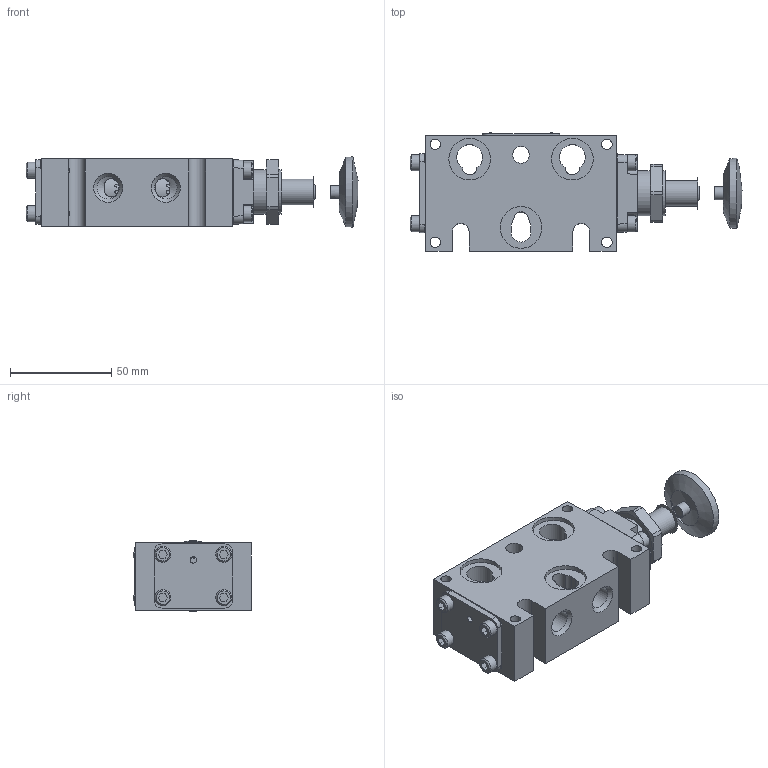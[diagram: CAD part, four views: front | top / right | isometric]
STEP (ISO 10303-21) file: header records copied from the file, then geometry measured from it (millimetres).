
FILE_DESCRIPTION(/* description */ (''),/* implementation_level */ '2;1');
FILE_NAME(/* name */ 'D:\Engineering\Product\valves\Assembly\palm\KO\stp\BKO2R.stp',/* time_stamp */ '2022-05-01T21:49:28-04:00',/* author */ ('RMcKenna'),/* organization */ (''),/* preprocessor_version */ 'ST-DEVELOPER v18.1',/* originating_system */ 'Autodesk Inventor 2021',/* authorisation */ '');
FILE_SCHEMA (('AUTOMOTIVE_DESIGN { 1 0 10303 214 3 1 1 }'));
Length unit declared in the file: centimetre
Products named in the file (1): Part9
Bounding box: 164.22 x 58.5 x 34.83 mm (x, y, z)
Volume: 164623.4 mm3; surface area: 60226.2 mm2
Topology: 1 solids, 27 shells, 886 faces, 2059 edges, 1306 vertices
Faces by surface type: plane 359, cone 212, cylinder 190, torus 86, bspline 36, sphere 3
Full cylindrical faces by diameter (mm): 2.07 x2, 2.261 x2, 2.778 x2, 3.048 x2, 3.175 x3, 3.683 x8, 4.826 x8, 5.156 x12, 6.401 x2, 7.938 x8, 8.153 x1, 8.334 x1, 9.922 x1, 10.973 x2, 11.113 x2, 11.303 x2, 12.7 x1, 14.275 x1, 18.618 x2, 18.745 x12, 19.177 x2, 20.625 x3, 22.225 x2, 23.825 x7
Entity records: 28888 total; most frequent: CARTESIAN_POINT 7828, DIRECTION 4194, ORIENTED_EDGE 4092, EDGE_CURVE 2046, AXIS2_PLACEMENT_3D 1632, VERTEX_POINT 1306, EDGE_LOOP 1028, LINE 930
